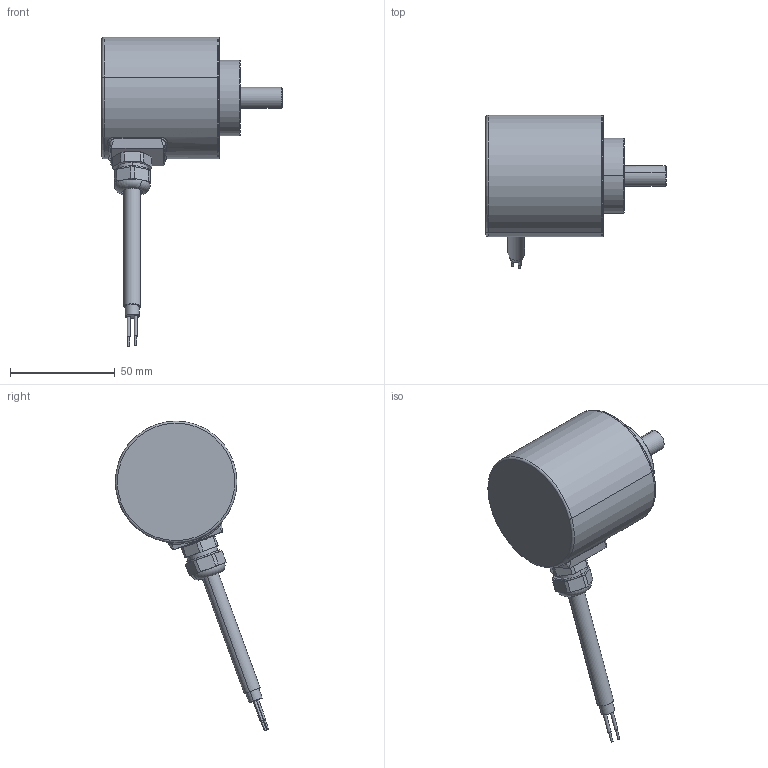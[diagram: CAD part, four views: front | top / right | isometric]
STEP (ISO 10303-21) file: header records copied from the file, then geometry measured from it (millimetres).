
FILE_DESCRIPTION (( 'STEP AP214' ), '1' );
FILE_NAME ('5805.12X2.XXXX.STEP', '2011-01-05T07:32:30', ( 'admin' ), ( 'Fritz Kübler GmbH' ), 'SwSTEP 2.0', 'SolidWorks 2009', '' );
FILE_SCHEMA (( 'AUTOMOTIVE_DESIGN' ));
Length unit declared in the file: millimetre
Products named in the file (1): 5805.12X2.XXXX
Bounding box: 85.95 x 73.2 x 147.77 mm (x, y, z)
Volume: 55477 mm3; surface area: 48955.4 mm2
Topology: 7 solids, 7 shells, 286 faces, 705 edges, 429 vertices
Faces by surface type: cylinder 101, plane 75, cone 45, torus 24, bspline 21, sphere 20
Entity records: 14533 total; most frequent: CARTESIAN_POINT 4854, DIRECTION 1402, ORIENTED_EDGE 1276, EDGE_CURVE 638, AXIS2_PLACEMENT_3D 591, VERTEX_POINT 399, EDGE_LOOP 349, CIRCLE 325
